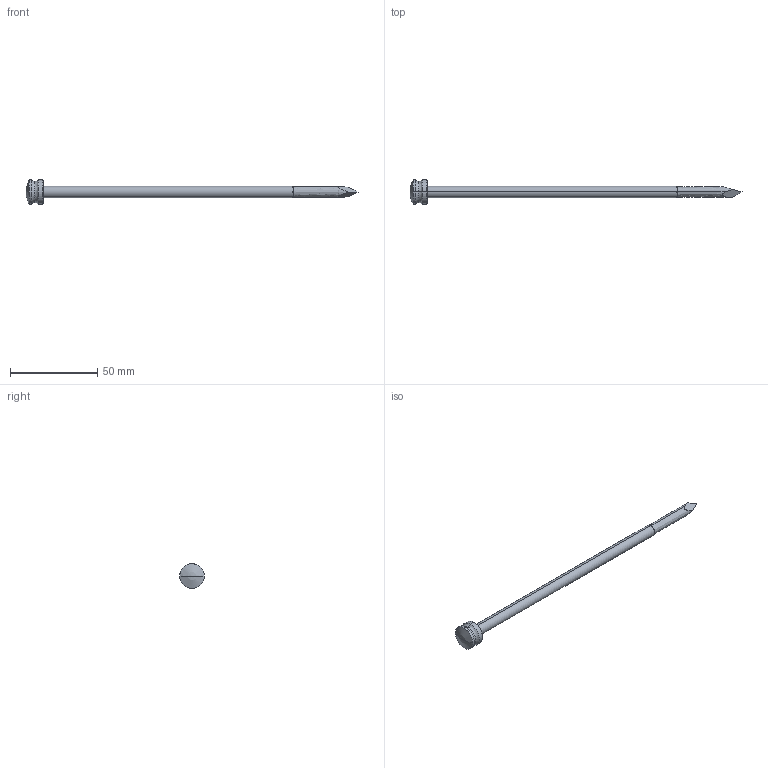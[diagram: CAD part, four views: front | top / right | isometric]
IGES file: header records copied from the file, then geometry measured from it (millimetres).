
Start section: SolidWorks IGES file using analytic representation for surfaces
Global section: file name: C:\Users\e.bondaruk\Desktop\縺 嚦闉鍙酀50.30.4240.IGS; native system: SolidWorks 2022; preprocessor: SolidWorks 2022; author: e.bondaruk; date: 230210.125216; units: millimetre
Bounding box: 190 x 14 x 14 mm (x, y, z)
Surface area: 4202.8 mm2 (no closed solid volume)
Topology: 0 solids, 0 shells, 22 faces, 208 edges, 207 vertices
Faces by surface type: revolution 14, bspline 8
